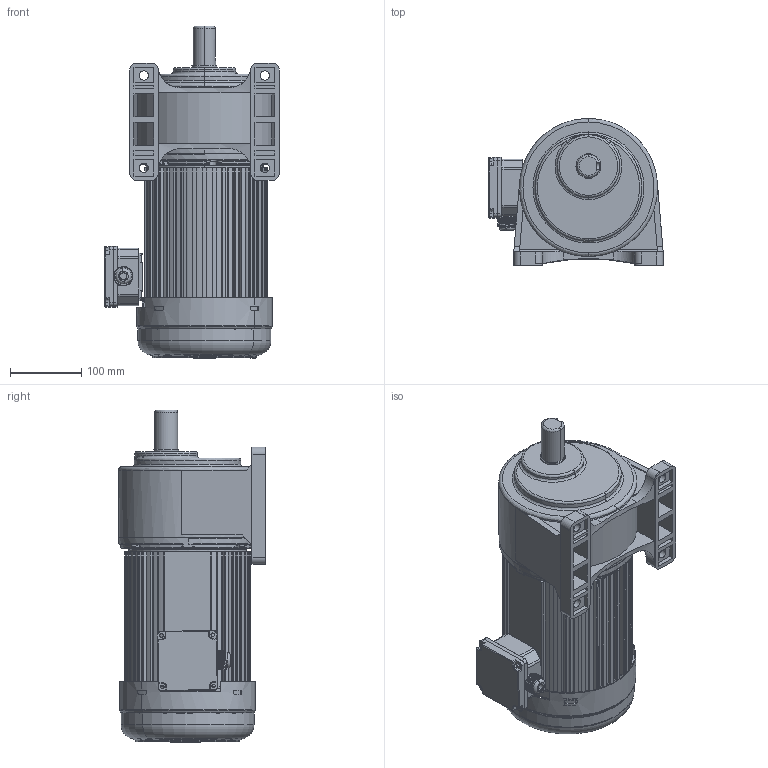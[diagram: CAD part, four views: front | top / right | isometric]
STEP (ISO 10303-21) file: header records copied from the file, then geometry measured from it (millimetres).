
FILE_DESCRIPTION (( 'STEP AP203' ), '1' );
FILE_NAME ('2200W饜4#拏宒.STEP', '2020-04-13T11:12:24', ( 'china' ), ( 'china' ), 'SwSTEP 2.0', 'SolidWorks 2019', '' );
FILE_SCHEMA (( 'CONFIG_CONTROL_DESIGN' ));
Length unit declared in the file: millimetre
Products named in the file (9): 2200W饜4#拏宒; 4-xg3-0926; 1500W綴傷裔; 瑞欶; 蜊輛綴諉盄碟釱3; 諉芛; 蜊輛綴諉盄碟裔3; 4#拏宒眊极; 2200W儂褲
Assembly tree (8 placements, depth 2):
  2200W饜4#拏宒
    1500W綴傷裔
    瑞欶
    蜊輛綴諉盄碟釱3
    諉芛
    蜊輛綴諉盄碟裔3
    2200W儂褲
    4-xg3-0926
    4#拏宒眊极
Bounding box: 244.99 x 206.5 x 466.48 mm (x, y, z)
Volume: 4561680.4 mm3; surface area: 966888.9 mm2
Topology: 7 solids, 8 shells, 3876 faces, 10087 edges, 6187 vertices
Faces by surface type: plane 1371, cylinder 1077, bspline 673, torus 408, cone 297, sphere 50
Entity records: 242069 total; most frequent: CARTESIAN_POINT 152202, ORIENTED_EDGE 19907, DIRECTION 16515, EDGE_CURVE 9955, VERTEX_POINT 6187, AXIS2_PLACEMENT_3D 5982, VECTOR 4551, LINE 4551
